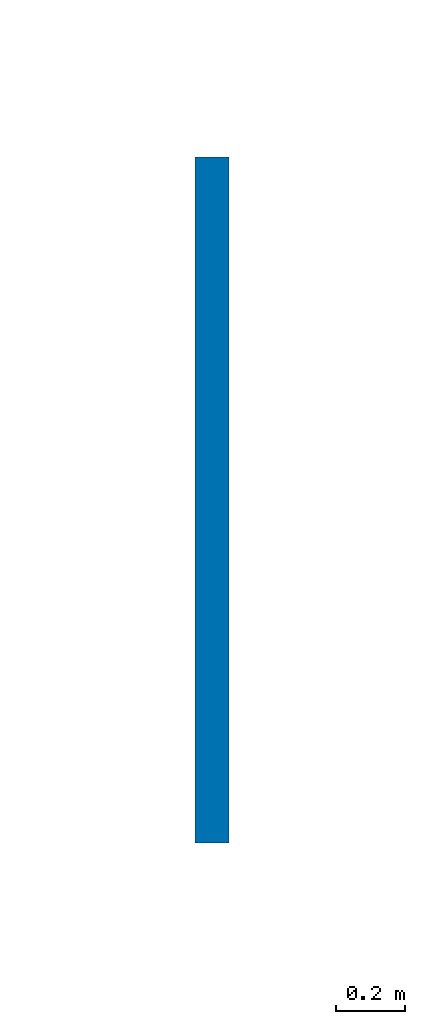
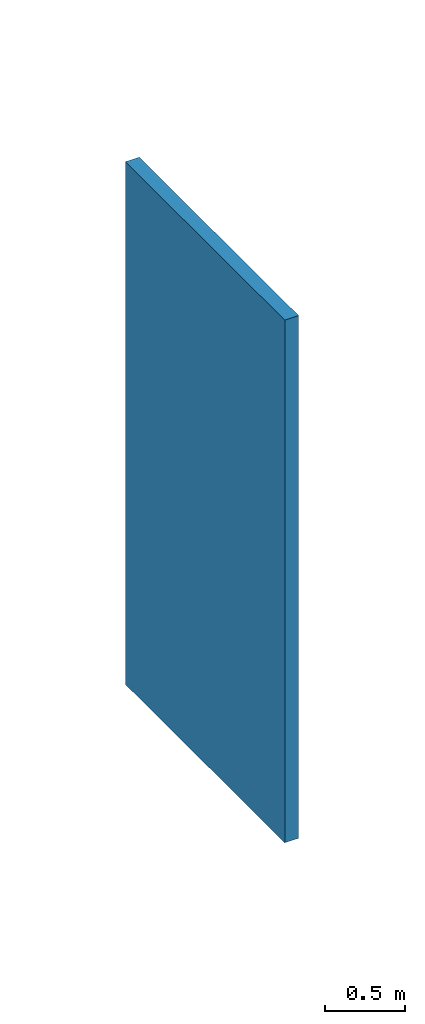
# One storey, part 10 of 164: 1 wall.
"""IFC2X3 building model written with IfcOpenShell, lengths in millimetres."""

from ifc_helpers import new_model, entity, si_unit, converted_unit, derived_unit, direction, frame, frame_2d, origin, place, context, subcontext, project, spatial, rectangle, extrude, material, layer, layer_set, layer_usage, type_object, element, save


model = new_model("IFC2X3")

# Units and contexts
model_context = context("Model", 3, precision=0.01, world=origin(), true_north=direction((6.12303176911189e-17, 1.0)))
body_context = subcontext(model_context, "Body", "Model", "MODEL_VIEW")
ifc_project = project(units=[si_unit("LENGTHUNIT", "METRE", prefix="MILLI"), si_unit("AREAUNIT", "SQUARE_METRE"), si_unit("VOLUMEUNIT", "CUBIC_METRE"), converted_unit("PLANEANGLEUNIT", "DEGREE", entity("IfcRatioMeasure", 0.0174532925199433), si_unit("PLANEANGLEUNIT", "RADIAN"), dimensions=[0, 0, 0, 0, 0, 0, 0]), si_unit("MASSUNIT", "GRAM", prefix="KILO"), derived_unit("MASSDENSITYUNIT", [(si_unit("MASSUNIT", "GRAM", prefix="KILO"), 1), (si_unit("LENGTHUNIT", "METRE"), -3)]), derived_unit("MOMENTOFINERTIAUNIT", [(si_unit("LENGTHUNIT", "METRE"), 4)]), si_unit("TIMEUNIT", "SECOND"), si_unit("FREQUENCYUNIT", "HERTZ"), si_unit("THERMODYNAMICTEMPERATUREUNIT", "DEGREE_CELSIUS"), derived_unit("THERMALTRANSMITTANCEUNIT", [(si_unit("MASSUNIT", "GRAM", prefix="KILO"), 1), (si_unit("THERMODYNAMICTEMPERATUREUNIT", "KELVIN"), -1), (si_unit("TIMEUNIT", "SECOND"), -3)]), derived_unit("VOLUMETRICFLOWRATEUNIT", [(si_unit("LENGTHUNIT", "METRE"), 3), (si_unit("TIMEUNIT", "SECOND"), -1)]), si_unit("ELECTRICCURRENTUNIT", "AMPERE"), si_unit("ELECTRICVOLTAGEUNIT", "VOLT"), si_unit("POWERUNIT", "WATT"), si_unit("FORCEUNIT", "NEWTON", prefix="KILO"), si_unit("ILLUMINANCEUNIT", "LUX"), si_unit("LUMINOUSFLUXUNIT", "LUMEN"), si_unit("LUMINOUSINTENSITYUNIT", "CANDELA"), derived_unit("USERDEFINED", [(si_unit("MASSUNIT", "GRAM", prefix="KILO"), -1), (si_unit("LENGTHUNIT", "METRE"), -2), (si_unit("TIMEUNIT", "SECOND"), 3), (si_unit("LUMINOUSFLUXUNIT", "LUMEN"), 1)]), derived_unit("LINEARVELOCITYUNIT", [(si_unit("LENGTHUNIT", "METRE"), 1), (si_unit("TIMEUNIT", "SECOND"), -1)]), si_unit("PRESSUREUNIT", "PASCAL"), derived_unit("USERDEFINED", [(si_unit("LENGTHUNIT", "METRE"), -2), (si_unit("MASSUNIT", "GRAM", prefix="KILO"), 1), (si_unit("TIMEUNIT", "SECOND"), -2)]), derived_unit("LINEARFORCEUNIT", [(si_unit("MASSUNIT", "GRAM", prefix="KILO"), 1), (si_unit("LENGTHUNIT", "METRE"), 1), (si_unit("TIMEUNIT", "SECOND"), -2), (si_unit("LENGTHUNIT", "METRE"), -1)]), derived_unit("PLANARFORCEUNIT", [(si_unit("MASSUNIT", "GRAM", prefix="KILO"), 1), (si_unit("LENGTHUNIT", "METRE"), 1), (si_unit("TIMEUNIT", "SECOND"), -2), (si_unit("LENGTHUNIT", "METRE"), -2)])], contexts=[model_context])

# Site, building, storey
site_placement = place(None, origin())
site = spatial("IfcSite", under=ifc_project, at=site_placement, Name="Default", CompositionType="ELEMENT")
building_placement = place(site_placement, origin())
building = spatial("IfcBuilding", under=site, at=building_placement, CompositionType="ELEMENT")
storey_placement = place(building_placement, origin())
storey = spatial("IfcBuildingStorey", under=building, at=storey_placement, Name="Level 1", CompositionType="ELEMENT", Elevation=0.0)

# Wall
ifc_material = material(Name="Default Wall")
ifc_layer = layer(ifc_material, 100.0)
ifc_layer_set = layer_set([ifc_layer], Name="Basic Wall:Generic - 100mm")
ifc_layer_usage = layer_usage(ifc_layer_set, "AXIS2", "NEGATIVE", 50.0)
wall_type = type_object("IfcWallType", Name="Basic Wall:Generic - 100mm", PredefinedType="STANDARD", material=ifc_layer_set)
wall_placement = place(storey_placement, frame((200050.0, 301000.0, 0.0), z_axis=(0.0, 0.0, 1.0), x_axis=(0.0, -1.0, 0.0)))
element("IfcWallStandardCase", 1, at=wall_placement, inside=storey, type_object=wall_type, material=ifc_layer_usage, Name="Basic Wall:Generic - 100mm", ObjectType="Basic Wall:Generic - 100mm", context=body_context, shape_type="SweptSolid", body=[
    extrude(rectangle(XDim=2000.00000000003, YDim=99.9999999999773, at=frame_2d((1000.00000000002, 1.60937929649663e-12), x_axis=(-1.0, 0.0))), origin(), (0.0, 0.0, 1.0), 4000.0),
])

save(model, "model.ifc")
